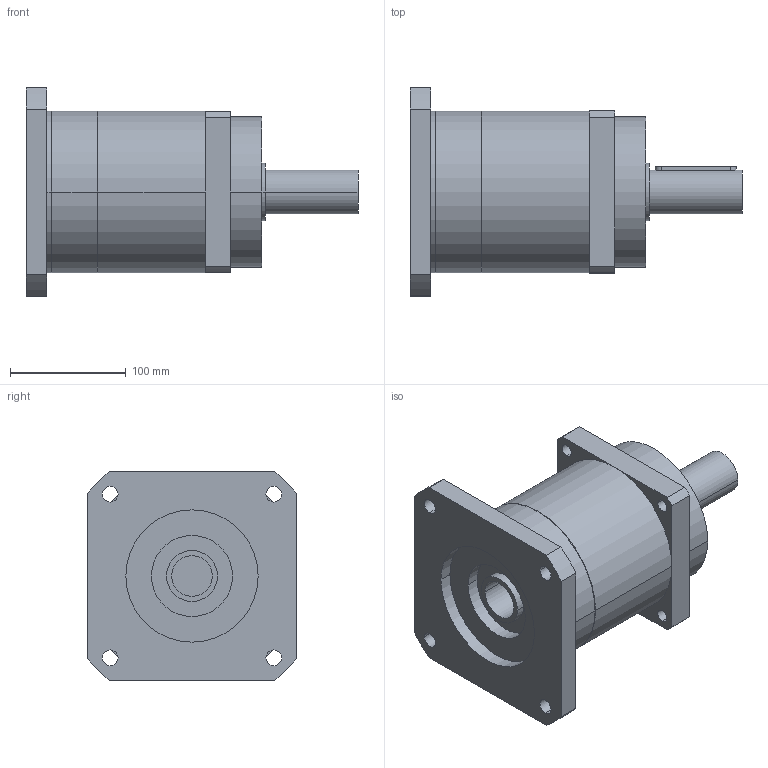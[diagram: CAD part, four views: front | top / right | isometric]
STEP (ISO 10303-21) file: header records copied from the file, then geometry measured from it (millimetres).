
FILE_DESCRIPTION(('CoCreate Modeling STEP Export'),'2;1');
FILE_NAME('GPR150_ig-3-4-5-7_38_B5_35_P09.stp','2014-08-19T16:43:16',(''),(''),'CoCreate Modeling STEP processor for AP214 (Solid Model)','CoCreate Modeling 16.00C 25-Feb-2009 (C) Parametric Technology GmbH','');
FILE_SCHEMA(('AUTOMOTIVE_DESIGN { 1 0 10303 214 1 1 1 1 }'));
Length unit declared in the file: millimetre
Products named in the file (2): GPR150_ig-3-4-5-7_38_B5_35_P09
Assembly tree (1 placements, depth 2):
  GPR150_ig-3-4-5-7_38_B5_35_P09
    GPR150_ig-3-4-5-7_38_B5_35_P09
Bounding box: 287 x 180 x 180 mm (x, y, z)
Volume: 3330765.6 mm3; surface area: 198805.7 mm2
Topology: 1 solids, 1 shells, 81 faces, 221 edges, 151 vertices
Faces by surface type: cylinder 48, plane 27, cone 6
Entity records: 2330 total; most frequent: ORIENTED_EDGE 438, CARTESIAN_POINT 432, DIRECTION 330, EDGE_CURVE 219, VERTEX_POINT 151, AXIS2_PLACEMENT_3D 121, EDGE_LOOP 108, VECTOR 88
